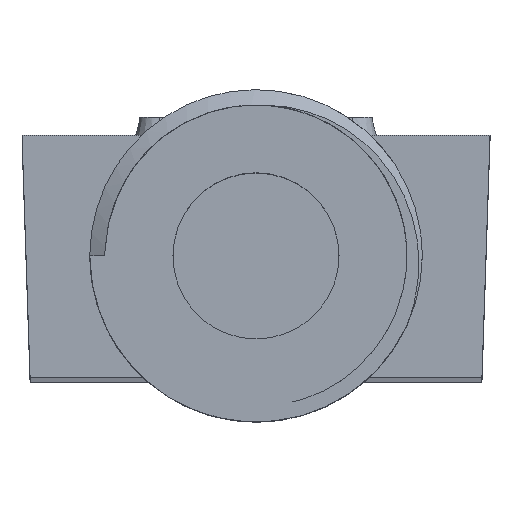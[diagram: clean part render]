
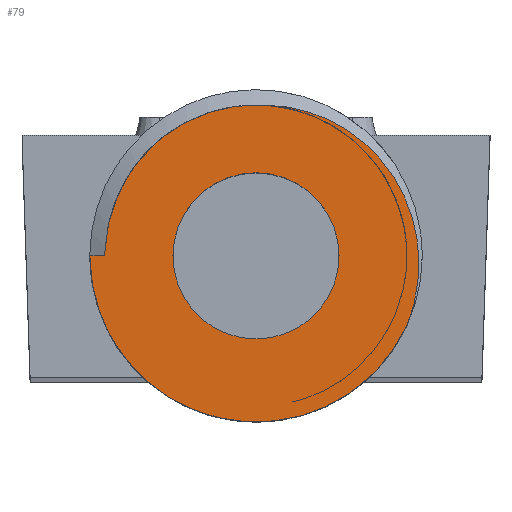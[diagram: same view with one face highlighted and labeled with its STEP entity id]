
A CAD part, top view. The second image highlights one B-rep face of the part: STEP entity #79.
In plain terms, the highlighted planar face has unit normal (0, 0, 1).
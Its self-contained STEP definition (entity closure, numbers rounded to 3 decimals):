
#8 = ORIENTED_EDGE ( 'NONE', *, *, #1995, .T. ) ;
#23 = AXIS2_PLACEMENT_3D ( 'NONE', #4848, #7904, #3371 ) ;
#33 = CARTESIAN_POINT ( 'NONE',  ( -7.481, 5.638, 198. ) ) ;
#60 = DIRECTION ( 'NONE',  ( 1., 0., 0. ) ) ;
#79 = ADVANCED_FACE ( 'NONE', ( #5590, #8650 ), #1818, .T. ) ;
#99 = VERTEX_POINT ( 'NONE', #2714 ) ;
#143 = CARTESIAN_POINT ( 'NONE',  ( 5.483, 7.912, 198. ) ) ;
#187 = VERTEX_POINT ( 'NONE', #8845 ) ;
#197 = ORIENTED_EDGE ( 'NONE', *, *, #9565, .F. ) ;
#394 = EDGE_CURVE ( 'NONE', #5502, #2286, #6468, .T. ) ;
#683 = CARTESIAN_POINT ( 'NONE',  ( -9.205, 1.765, 198. ) ) ;
#684 = CARTESIAN_POINT ( 'NONE',  ( 9.893, -2.532, 198. ) ) ;
#734 = CARTESIAN_POINT ( 'NONE',  ( 9.854, 1.856, 198. ) ) ;
#931 = CARTESIAN_POINT ( 'NONE',  ( -1.928, 9.172, 198. ) ) ;
#1477 = CARTESIAN_POINT ( 'NONE',  ( -3.382, 8.725, 198. ) ) ;
#1526 = CARTESIAN_POINT ( 'NONE',  ( -9.302, 1.153, 198. ) ) ;
#1576 = CARTESIAN_POINT ( 'NONE',  ( -9.337, 0.538, 198. ) ) ;
#1627 = CARTESIAN_POINT ( 'NONE',  ( -5.28, 7.744, 198. ) ) ;
#1679 = CARTESIAN_POINT ( 'NONE',  ( -2.518, 9.028, 198. ) ) ;
#1814 = ORIENTED_EDGE ( 'NONE', *, *, #3621, .T. ) ;
#1818 = PLANE ( 'NONE',  #23 ) ;
#1835 = VECTOR ( 'NONE', #8959, 1000. ) ;
#1887 = CARTESIAN_POINT ( 'NONE',  ( 9.288, -4.452, 198. ) ) ;
#1995 = EDGE_CURVE ( 'NONE', #8124, #187, #2254, .T. ) ;
#2117 = CARTESIAN_POINT ( 'NONE',  ( 0., 0., 198. ) ) ;
#2229 = CARTESIAN_POINT ( 'NONE',  ( -3.668, 8.609, 198. ) ) ;
#2254 = CIRCLE ( 'NONE', #7033, 10.3 ) ;
#2278 = CARTESIAN_POINT ( 'NONE',  ( 9.805, -2.922, 198. ) ) ;
#2286 = VERTEX_POINT ( 'NONE', #6741 ) ;
#2318 = AXIS2_PLACEMENT_3D ( 'NONE', #2117, #3567, #2726 ) ;
#2377 = CARTESIAN_POINT ( 'NONE',  ( 5.825, 7.69, 198. ) ) ;
#2426 = CARTESIAN_POINT ( 'NONE',  ( 10.008, 1.07, 198. ) ) ;
#2520 = CARTESIAN_POINT ( 'NONE',  ( -1.021, 9.302, 198. ) ) ;
#2714 = CARTESIAN_POINT ( 'NONE',  ( 0.516, 9.339, 198. ) ) ;
#2726 = DIRECTION ( 'NONE',  ( 1., 0., 0. ) ) ;
#2848 = CARTESIAN_POINT ( 'NONE',  ( -9.337, 0.538, 198. ) ) ;
#2919 = VERTEX_POINT ( 'NONE', #2848 ) ;
#3034 = CARTESIAN_POINT ( 'NONE',  ( 8.135, 5.475, 198. ) ) ;
#3130 = CARTESIAN_POINT ( 'NONE',  ( -8.898, 2.943, 198. ) ) ;
#3178 = CARTESIAN_POINT ( 'NONE',  ( 7.626, 6.102, 198. ) ) ;
#3230 = CARTESIAN_POINT ( 'NONE',  ( 0.208, 9.356, 198. ) ) ;
#3371 = DIRECTION ( 'NONE',  ( 1., 0., 0. ) ) ;
#3383 = CARTESIAN_POINT ( 'NONE',  ( -10.3, 0., 198. ) ) ;
#3385 = CARTESIAN_POINT ( 'NONE',  ( 9.582, -3.695, 198. ) ) ;
#3426 = CARTESIAN_POINT ( 'NONE',  ( -9.357, 0.359, 198. ) ) ;
#3566 = ORIENTED_EDGE ( 'NONE', *, *, #9352, .F. ) ;
#3567 = DIRECTION ( 'NONE',  ( 0., 0., 1. ) ) ;
#3621 = EDGE_CURVE ( 'NONE', #9027, #8124, #3933, .T. ) ;
#3623 = CARTESIAN_POINT ( 'NONE',  ( -9.826, 0., 198. ) ) ;
#3689 = DIRECTION ( 'NONE',  ( 1., 0., 0. ) ) ;
#3722 = CARTESIAN_POINT ( 'NONE',  ( -8.141, 4.613, 198. ) ) ;
#3775 = CARTESIAN_POINT ( 'NONE',  ( 2.123, 9.203, 198. ) ) ;
#3875 = CARTESIAN_POINT ( 'NONE',  ( 0.922, 9.337, 198. ) ) ;
#3925 = CARTESIAN_POINT ( 'NONE',  ( -8.689, 3.514, 198. ) ) ;
#3927 = CARTESIAN_POINT ( 'NONE',  ( 6.471, 7.209, 198. ) ) ;
#3933 = LINE ( 'NONE', #3623, #1835 ) ;
#4050 = ORIENTED_EDGE ( 'NONE', *, *, #6854, .F. ) ;
#4060 = EDGE_LOOP ( 'NONE', ( #4543, #197 ) ) ;
#4174 = CARTESIAN_POINT ( 'NONE',  ( 0.516, 9.339, 198. ) ) ;
#4215 = CARTESIAN_POINT ( 'NONE',  ( -9.371, 0.18, 198. ) ) ;
#4384 = CARTESIAN_POINT ( 'NONE',  ( 0., 0., 198. ) ) ;
#4462 = CARTESIAN_POINT ( 'NONE',  ( 10.065, -1.343, 198. ) ) ;
#4511 = CARTESIAN_POINT ( 'NONE',  ( 2.52, 9.124, 198. ) ) ;
#4543 = ORIENTED_EDGE ( 'NONE', *, *, #394, .F. ) ;
#4659 = CARTESIAN_POINT ( 'NONE',  ( -4.495, 8.208, 198. ) ) ;
#4700 = AXIS2_PLACEMENT_3D ( 'NONE', #6087, #6889, #60 ) ;
#4848 = CARTESIAN_POINT ( 'NONE',  ( 0., 0., 198. ) ) ;
#4934 = EDGE_CURVE ( 'NONE', #2919, #99, #5135, .T. ) ;
#5135 = B_SPLINE_CURVE_WITH_KNOTS ( 'NONE', 3,
 ( #1576, #1526, #683, #3130, #3925, #6865, #3722, #7662, #33, #5410, #8456, #9058, #6112, #1627, #4659, #7707, #2229, #1477, #1679, #931, #2520, #7965, #5455, #3230, #4174 ),
 .UNSPECIFIED., .F., .F.,
 ( 4, 2, 2, 2, 1, 2, 2, 2, 2, 2, 2, 2, 4 ),
 ( 0., 0.002, 0.004, 0.005, 0.006, 0.006, 0.007, 0.009, 0.01, 0.011, 0.013, 0.014, 0.015 ),
 .UNSPECIFIED. ) ;
#5261 = CARTESIAN_POINT ( 'NONE',  ( 1.324, 9.31, 198. ) ) ;
#5348 = B_SPLINE_CURVE_WITH_KNOTS ( 'NONE', 3,
 ( #8412, #3875, #5261, #3775, #4511, #8311, #6164, #143, #2377, #3927, #9860, #7564, #3178, #3034, #6062, #9260, #9112, #734, #2426, #6813, #8259, #4462, #7515, #684, #2278, #3385, #5506, #1887 ),
 .UNSPECIFIED., .F., .F.,
 ( 4, 2, 2, 2, 2, 2, 2, 2, 2, 2, 2, 2, 2, 4 ),
 ( 0., 0.001, 0.002, 0.005, 0.006, 0.007, 0.008, 0.01, 0.012, 0.014, 0.016, 0.017, 0.018, 0.019 ),
 .UNSPECIFIED. ) ;
#5410 = CARTESIAN_POINT ( 'NONE',  ( -7.091, 6.106, 198. ) ) ;
#5455 = CARTESIAN_POINT ( 'NONE',  ( -0.099, 9.357, 198. ) ) ;
#5502 = VERTEX_POINT ( 'NONE', #8728 ) ;
#5506 = CARTESIAN_POINT ( 'NONE',  ( 9.446, -4.079, 198. ) ) ;
#5590 = FACE_BOUND ( 'NONE', #4060, .T. ) ;
#5788 = ORIENTED_EDGE ( 'NONE', *, *, #4934, .F. ) ;
#5920 = DIRECTION ( 'NONE',  ( 0., 0., 1. ) ) ;
#6062 = CARTESIAN_POINT ( 'NONE',  ( 8.371, 5.144, 198. ) ) ;
#6087 = CARTESIAN_POINT ( 'NONE',  ( 0., 0., 198. ) ) ;
#6112 = CARTESIAN_POINT ( 'NONE',  ( -5.772, 7.385, 198. ) ) ;
#6164 = CARTESIAN_POINT ( 'NONE',  ( 4.433, 8.504, 198. ) ) ;
#6468 = CIRCLE ( 'NONE', #4700, 5.148 ) ;
#6554 = CARTESIAN_POINT ( 'NONE',  ( -9.337, 0.538, 198. ) ) ;
#6741 = CARTESIAN_POINT ( 'NONE',  ( -5.148, 0., 198. ) ) ;
#6813 = CARTESIAN_POINT ( 'NONE',  ( 10.097, -0.13, 198. ) ) ;
#6854 = EDGE_CURVE ( 'NONE', #9027, #2919, #7075, .T. ) ;
#6865 = CARTESIAN_POINT ( 'NONE',  ( -8.29, 4.342, 198. ) ) ;
#6885 = CARTESIAN_POINT ( 'NONE',  ( -9.38, 0., 198. ) ) ;
#6889 = DIRECTION ( 'NONE',  ( 0., 0., 1. ) ) ;
#7033 = AXIS2_PLACEMENT_3D ( 'NONE', #4384, #5920, #3689 ) ;
#7075 = B_SPLINE_CURVE_WITH_KNOTS ( 'NONE', 3,
 ( #7351, #4215, #3426, #6554 ),
 .UNSPECIFIED., .F., .F.,
 ( 4, 4 ),
 ( 0., 0.001 ),
 .UNSPECIFIED. ) ;
#7351 = CARTESIAN_POINT ( 'NONE',  ( -9.38, 0., 198. ) ) ;
#7515 = CARTESIAN_POINT ( 'NONE',  ( 10.023, -1.742, 198. ) ) ;
#7564 = CARTESIAN_POINT ( 'NONE',  ( 7.355, 6.397, 198. ) ) ;
#7662 = CARTESIAN_POINT ( 'NONE',  ( -7.823, 5.135, 198. ) ) ;
#7707 = CARTESIAN_POINT ( 'NONE',  ( -4.225, 8.35, 198. ) ) ;
#7904 = DIRECTION ( 'NONE',  ( 0., 0., 1. ) ) ;
#7965 = CARTESIAN_POINT ( 'NONE',  ( -0.714, 9.331, 198. ) ) ;
#8124 = VERTEX_POINT ( 'NONE', #3383 ) ;
#8259 = CARTESIAN_POINT ( 'NONE',  ( 10.102, -0.537, 198. ) ) ;
#8311 = CARTESIAN_POINT ( 'NONE',  ( 3.693, 8.808, 198. ) ) ;
#8367 = CIRCLE ( 'NONE', #2318, 5.148 ) ;
#8412 = CARTESIAN_POINT ( 'NONE',  ( 0.516, 9.339, 198. ) ) ;
#8456 = CARTESIAN_POINT ( 'NONE',  ( -6.679, 6.555, 198. ) ) ;
#8650 = FACE_OUTER_BOUND ( 'NONE', #9330, .T. ) ;
#8728 = CARTESIAN_POINT ( 'NONE',  ( 5.148, 0., 198. ) ) ;
#8845 = CARTESIAN_POINT ( 'NONE',  ( 9.288, -4.452, 198. ) ) ;
#8959 = DIRECTION ( 'NONE',  ( -1., 0., 0. ) ) ;
#9027 = VERTEX_POINT ( 'NONE', #6885 ) ;
#9058 = CARTESIAN_POINT ( 'NONE',  ( -6.459, 6.771, 198. ) ) ;
#9112 = CARTESIAN_POINT ( 'NONE',  ( 9.35, 3.397, 198. ) ) ;
#9260 = CARTESIAN_POINT ( 'NONE',  ( 9.009, 4.123, 198. ) ) ;
#9330 = EDGE_LOOP ( 'NONE', ( #4050, #1814, #8, #3566, #5788 ) ) ;
#9352 = EDGE_CURVE ( 'NONE', #99, #187, #5348, .T. ) ;
#9565 = EDGE_CURVE ( 'NONE', #2286, #5502, #8367, .T. ) ;
#9860 = CARTESIAN_POINT ( 'NONE',  ( 6.777, 6.951, 198. ) ) ;
